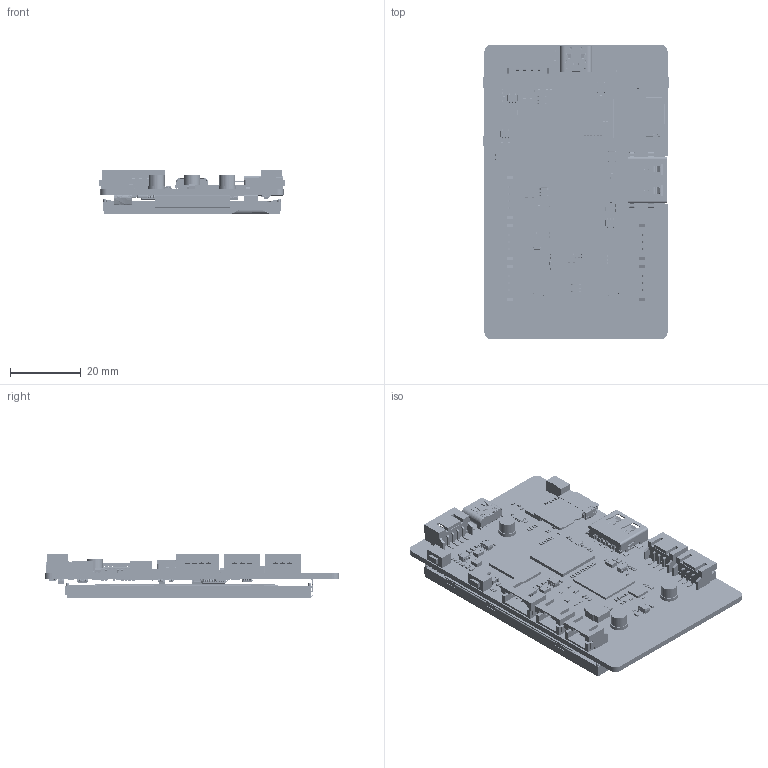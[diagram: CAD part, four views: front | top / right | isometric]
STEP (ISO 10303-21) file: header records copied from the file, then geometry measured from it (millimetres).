
FILE_DESCRIPTION(/* description */ (''),/* implementation_level */ '2;1');
FILE_NAME(/* name */ '[DFR0706]UNIHIKER(V1.2.0).step',/* time_stamp */ '2022-11-24T10:47:16+08:00',/* author */ (''),/* organization */ (''),/* preprocessor_version */ 'ST-DEVELOPER v19.2',/* originating_system */ 'Autodesk Translation Framework v11.17.0.187',/* authorisation */ '');
FILE_SCHEMA (('AUTOMOTIVE_DESIGN { 1 0 10303 214 3 1 1 }'));
Products named in the file (386): [DFR0706]UNIHIKER(V1.2.0); Board; C20-E; D1-F; SOD123; C7-G; C8-G; R7-G; R8-G; U2-G; Q1-L; C7-E; R21-D; R15-D; R10-E; R8-E; R4-D; C31; C17-D; C1-A; C4-A; R12-B; M3; ZD7-C; ZD6-C; ZD5-C; ZD4-C; ZD3-C; ZD2-F; ZD2-C; ZD1-F; ZD1-C; D_SOD-523; Y1; Y1-I; Y1-E; User_Library-3225-1; U6-D; U5-D; U4-D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
Assembly tree (683 placements, depth 4):
  [DFR0706]UNIHIKER(V1.2.0)
    Board
    C20-E
      C_0402_1005Metric
    D1-F
      SOD123
    C7-G
      1137690128
    C8-G
      1137712528
    R7-G
      R_0402_1005Metric
    R8-G
      R_0402_1005Metric
    U2-G
      sot23-5
    Q1-L
      led0603
      1170245568
        Extruded
    C7-E
      C_0402_1005Metric
    R21-D
      R_0402_1005Metric
    R15-D
      R_0402_1005Metric
    R10-E
      R_0402_1005Metric
    R8-E
      R_0402_1005Metric
    R4-D
      R_0402_1005Metric
    C31
      C_0402_1005Metric
    C17-D
      C_0402_1005Metric
    C1-A
      C_0402_1005Metric
    C4-A
      C_0402_1005Metric
    R12-B
      R_0402_1005Metric
    M3
      1165804400
        Cylinder
      1667248336
        Cylinder (1)
      1667248472
        Cylinder (2)
    ZD7-C
      D_SOD-523
    ZD6-C
      D_SOD-523
    ZD5-C
      D_SOD-523
    ZD4-C
      D_SOD-523
    ZD3-C
      D_SOD-523
    ZD2-F
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Bounding box: 52.6 x 83 x 12.62 mm (x, y, z)
Volume: 21832.5 mm3; surface area: 42292.3 mm2
Topology: 389 solids, 396 shells, 23572 faces, 63945 edges, 41939 vertices
Faces by surface type: plane 14197, bspline 5158, cylinder 3986, sphere 128, torus 80, cone 23
Full cylindrical faces by diameter (mm): 0.4 x4, 0.5 x5, 0.65 x2, 0.692 x2, 0.7 x6, 0.8 x3, 0.9 x7, 4.5 x3, 5 x3
Entity records: 287770 total; most frequent: CARTESIAN_POINT 72379, ORIENTED_EDGE 45042, DIRECTION 39695, EDGE_CURVE 22521, LINE 17103, VECTOR 17103, VERTEX_POINT 14683, AXIS2_PLACEMENT_3D 11296
